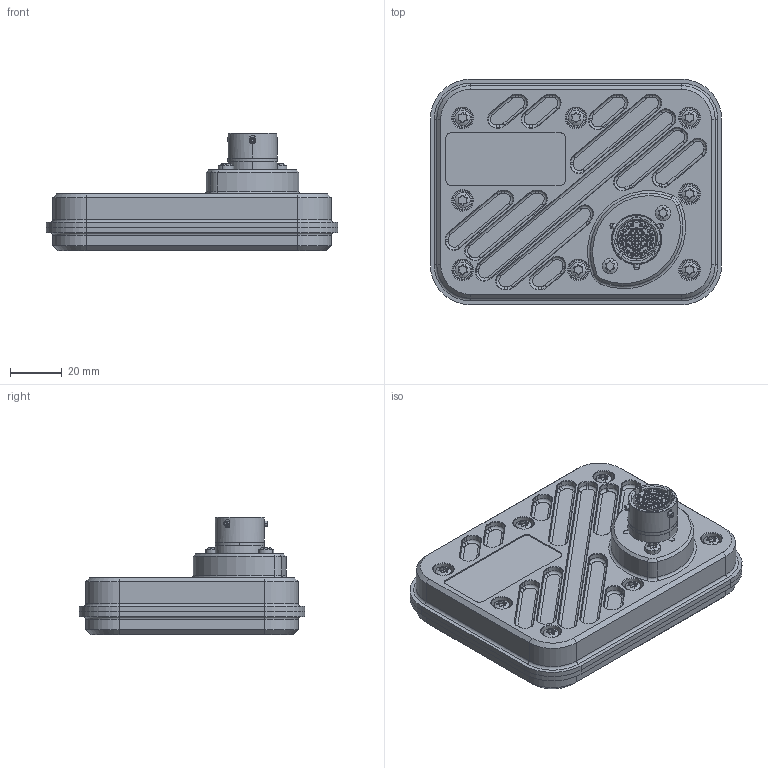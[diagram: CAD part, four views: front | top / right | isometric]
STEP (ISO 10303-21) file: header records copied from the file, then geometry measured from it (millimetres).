
FILE_DESCRIPTION(('CATIA V5 STEP Exchange'),'2;1');
FILE_NAME('T:\MCHL-T\251124_sent_to_AA-MCH version\MCH-T Assembly.stp','2025-11-24T09:19:19+00:00',('none'),('none'),'CATIA Version 5 Release 19 SP 9 (IN-10)','CATIA V5 STEP AP214','none');
FILE_SCHEMA(('AUTOMOTIVE_DESIGN { 1 0 10303 214 1 1 1 1 }'));
Length unit declared in the file: millimetre
Products named in the file (1): MCH-T Assembly
Bounding box: 113 x 87.5 x 45.65 mm (x, y, z)
Volume: 205355.1 mm3; surface area: 57310.8 mm2
Topology: 13 solids, 13 shells, 1271 faces, 2879 edges, 1800 vertices
Faces by surface type: cylinder 577, plane 313, cone 237, torus 124, sphere 20
Entity records: 38159 total; most frequent: CARTESIAN_POINT 11102, ORIENTED_EDGE 5734, DIRECTION 4737, EDGE_CURVE 2867, AXIS2_PLACEMENT_3D 2467, VERTEX_POINT 1800, EDGE_LOOP 1453, CIRCLE 1310
